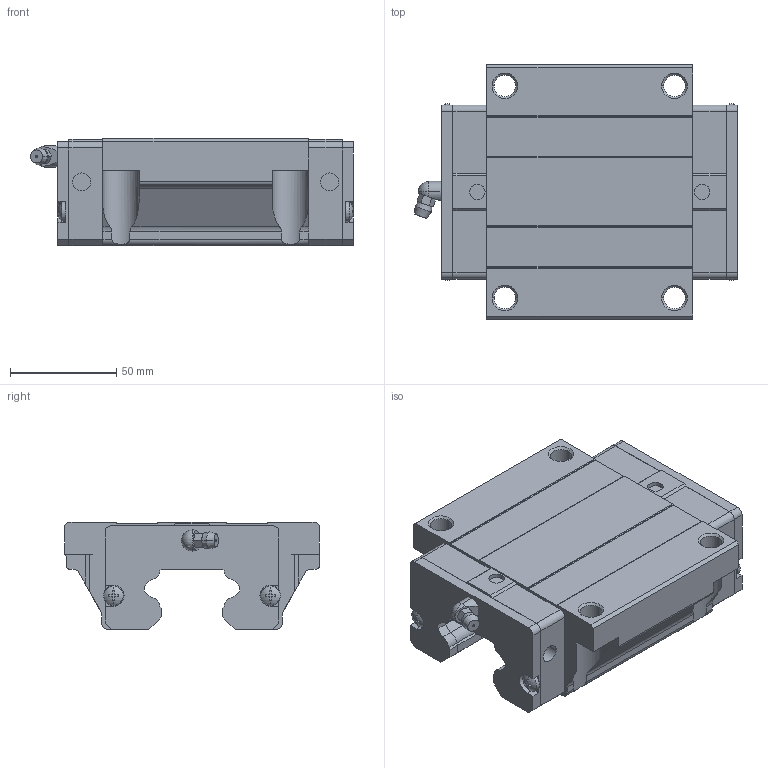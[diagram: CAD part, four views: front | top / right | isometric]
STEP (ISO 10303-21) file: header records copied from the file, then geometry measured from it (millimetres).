
FILE_DESCRIPTION(('starvars output'),'2;1');
FILE_NAME('cv20190610061235000017772.stp','06:12:35 2019/06/10',( 'Thomas Industrial Network Germany GmbH'),( 'Thomas Industrial Network Germany GmbH'),'unknown preprocess','ACIS' ,'unknown authorization');
FILE_SCHEMA(('CONFIG_CONTROL_DESIGN {UNKNOWN IMPLEMENTATION LEVEL}'));
Length unit declared in the file: millimetre
Products named in the file (10): PRODUCT_ID_3; PRODUCT_ID_4; PRODUCT_ID_5; PRODUCT_ID_6; PRODUCT_ID_7; PRODUCT_ID_8; PRODUCT_ID_9; PRODUCT_ID_10; PRODUCT_ID_11; PRODUCT_ID_12
Bounding box: 152.3 x 120 x 50.5 mm (x, y, z)
Volume: 520826.4 mm3; surface area: 89476.7 mm2
Topology: 10 solids, 10 shells, 411 faces, 1078 edges, 693 vertices
Faces by surface type: plane 258, cylinder 79, cone 62, sphere 12
Entity records: 12351 total; most frequent: CARTESIAN_POINT 2171, ORIENTED_EDGE 2148, DIRECTION 1690, EDGE_CURVE 1074, VERTEX_POINT 693, VECTOR 674, LINE 674, AXIS2_PLACEMENT_3D 508
